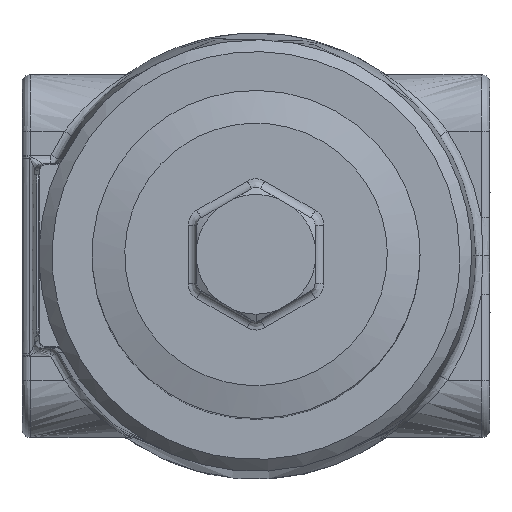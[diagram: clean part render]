
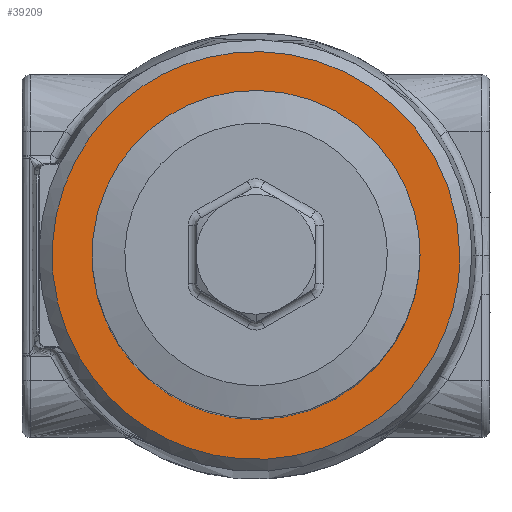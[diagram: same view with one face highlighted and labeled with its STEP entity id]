
A CAD part, top view. The second image highlights one B-rep face of the part: STEP entity #39209.
In plain terms, the highlighted free-form (B-spline) face has degree [1, 1] with [2, 2] control points.
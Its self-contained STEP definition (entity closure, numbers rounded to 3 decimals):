
#39151=CARTESIAN_POINT('V449',(29.867,-3.957,
   66.0));
#39152=VERTEX_POINT('V449',#39151);
#39153=CARTESIAN_POINT('E779',(29.867,-3.957,
   66.0));
#39154=CARTESIAN_POINT('E779',(29.867,60.995,
   66.0));
#39155=CARTESIAN_POINT('E779',(-26.383,
   28.519,66.0));
#39156=CARTESIAN_POINT('E779',(-82.633,
   -3.957,66.0));
#39157=CARTESIAN_POINT('E779',(-26.383,
   -36.433,66.0));
#39158=CARTESIAN_POINT('E779',(29.867,
   -68.909,66.0));
#39159=CARTESIAN_POINT('E779',(29.867,-3.957,
   66.0));
#39167=(BOUNDED_CURVE()B_SPLINE_CURVE(2,(#39153,#39154,#39155,
   #39156,#39157,#39158,#39159),.CIRCULAR_ARC.,.T.,.U.)
   B_SPLINE_CURVE_WITH_KNOTS((3,2,2,3),(0.0,0.333,
   0.667,1.0),.UNSPECIFIED.)CURVE()
   GEOMETRIC_REPRESENTATION_ITEM()RATIONAL_B_SPLINE_CURVE((1.0,
   0.5,1.0,0.5,1.0,0.5,1.0)
   )REPRESENTATION_ITEM('E779'));
#39168=EDGE_CURVE('E779',#39152,#39152,#39167,.T.);
#39180=CARTESIAN_POINT('F326',(-58.908,
   47.318,66.0));
#39181=CARTESIAN_POINT('F326',(43.642,47.318,
   66.0));
#39182=CARTESIAN_POINT('F326',(-58.908,
   -55.232,66.0));
#39183=CARTESIAN_POINT('F326',(43.642,
   -55.232,66.0));
#39184=QUASI_UNIFORM_SURFACE('F326',1,1,((#39180,#39182),(#39181,
   #39183)),.PLANE_SURF.,.F.,.F.,.U.);
#39185=CARTESIAN_POINT('V67',(38.98,-3.957,
   66.0));
#39186=VERTEX_POINT('V67',#39185);
#39187=CARTESIAN_POINT('E77',(38.98,-3.957,
   66.0));
#39188=CARTESIAN_POINT('E77',(38.98,76.78,
   66.0));
#39189=CARTESIAN_POINT('E77',(-30.94,36.411,
   66.0));
#39190=CARTESIAN_POINT('E77',(-100.86,
   -3.957,66.0));
#39191=CARTESIAN_POINT('E77',(-30.94,
   -44.325,66.0));
#39192=CARTESIAN_POINT('E77',(38.98,-84.694,
   66.0));
#39193=CARTESIAN_POINT('E77',(38.98,-3.957,
   66.0));
#39201=(BOUNDED_CURVE()B_SPLINE_CURVE(2,(#39187,#39188,#39189,
   #39190,#39191,#39192,#39193),.CIRCULAR_ARC.,.T.,.U.)
   B_SPLINE_CURVE_WITH_KNOTS((3,2,2,3),(0.0,39.284,
   78.569,117.853),.UNSPECIFIED.)CURVE()
   GEOMETRIC_REPRESENTATION_ITEM()RATIONAL_B_SPLINE_CURVE((1.0,
   0.5,1.0,0.5,1.0,0.5,1.0)
   )REPRESENTATION_ITEM('E77'));
#39202=EDGE_CURVE('E77',#39186,#39186,#39201,.T.);
#39203=ORIENTED_EDGE('E77',*,*,#39202,.T.);
#39204=EDGE_LOOP('F326',(#39203));
#39205=FACE_OUTER_BOUND('F326',#39204,.T.);
#39206=ORIENTED_EDGE('E779',*,*,#39168,.F.);
#39207=EDGE_LOOP('F326',(#39206));
#39208=FACE_BOUND('F326',#39207,.T.);
#39209=ADVANCED_FACE('F326',(#39205,#39208),#39184,.F.);
